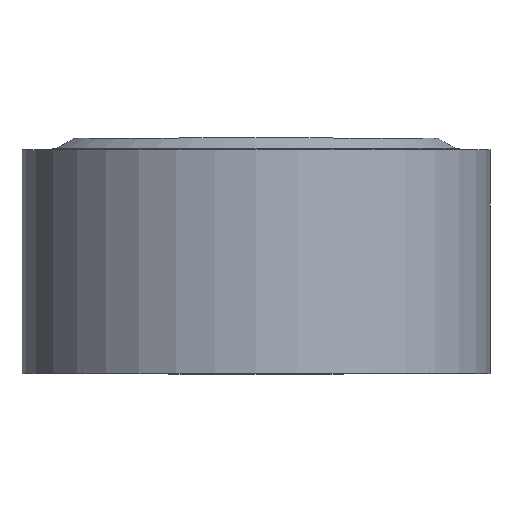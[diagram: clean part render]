
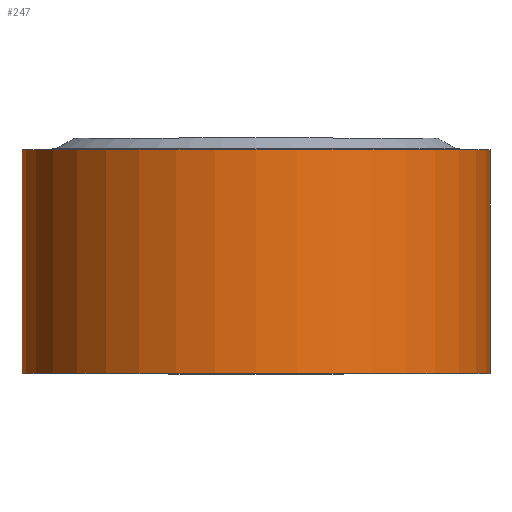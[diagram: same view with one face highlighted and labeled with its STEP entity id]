
A CAD part, top view. The second image highlights one B-rep face of the part: STEP entity #247.
In plain terms, the highlighted cylindrical face has radius 11.5 mm (diameter 23 mm), a full revolution.
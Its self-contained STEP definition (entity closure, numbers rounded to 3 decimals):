
#162=CYLINDRICAL_SURFACE('',#861,11.5);
#247=ADVANCED_FACE('',(#339,#340),#162,.T.);
#339=FACE_BOUND('',#363,.T.);
#340=FACE_BOUND('',#364,.T.);
#363=EDGE_LOOP('',(#457));
#364=EDGE_LOOP('',(#458));
#457=ORIENTED_EDGE('',*,*,#746,.T.);
#458=ORIENTED_EDGE('',*,*,#764,.F.);
#666=VERTEX_POINT('',#1167);
#684=VERTEX_POINT('',#1300);
#746=EDGE_CURVE('',#666,#666,#841,.T.);
#764=EDGE_CURVE('',#684,#684,#844,.T.);
#841=CIRCLE('',#853,11.5);
#844=CIRCLE('',#858,11.5);
#853=AXIS2_PLACEMENT_3D('',#1166,#909,#910);
#858=AXIS2_PLACEMENT_3D('',#1299,#919,#920);
#861=AXIS2_PLACEMENT_3D('',#1304,#925,#926);
#909=DIRECTION('',(0.,1.,0.));
#910=DIRECTION('',(0.,0.,-1.));
#919=DIRECTION('',(0.,1.,0.));
#920=DIRECTION('',(0.,0.,-1.));
#925=DIRECTION('',(0.,1.,0.));
#926=DIRECTION('',(0.,0.,-1.));
#1166=CARTESIAN_POINT('',(0.,-11.,0.));
#1167=CARTESIAN_POINT('',(0.,-11.,-11.5));
#1299=CARTESIAN_POINT('',(0.,0.,0.));
#1300=CARTESIAN_POINT('',(0.,0.,-11.5));
#1304=CARTESIAN_POINT('',(0.,77.298,0.));
